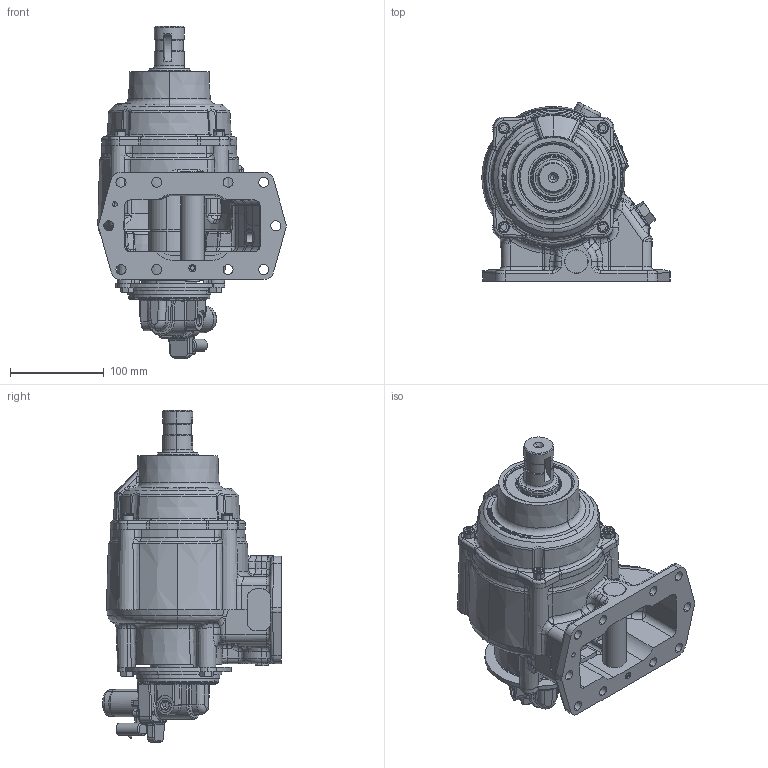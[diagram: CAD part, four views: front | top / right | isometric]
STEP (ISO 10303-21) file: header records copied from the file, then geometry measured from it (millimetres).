
FILE_DESCRIPTION (( 'STEP AP203' ), '1' );
FILE_NAME ('A20-A10XX-HX31XPX.STEP', '2023-03-28T17:14:47', ( '' ), ( '' ), 'SwSTEP 2.0', 'SolidWorks 2021', '' );
FILE_SCHEMA (( 'CONFIG_CONTROL_DESIGN' ));
Length unit declared in the file: inch
Products named in the file (31): 12T42978TMP.STEP; A20-A10XX-HX31XPX; 15T43460TMP_NO SENSOR HOLES.STEP; 15T43431_FOR CLAMPS; 47T6123_15T43431_DUST CAP INSTALLED; 47T6124TMP_15T43460_KEY_C.STEP; 01T43433_TMPTMP_STEEL CLAMP.STEP; SC-253TMP_12T39023.STEP; 06T43108TMP_06T43108.STEP; 47T6130TMP.STEP; 47T6123TMP_Solenoid; 11T37795TMP.STEP; 47T6127TMP_01T43433.STEP; 47T6128TMP_compressed disc.STEP; SC-288TMP_19T36082.STEP; A20-A10XX-HX31XPX.STEP; 35M35821M_TEMPTMP.STEP; 47T6131TMP.STEP; 25T41463TMP.STEP; 47T6125TMP.STEP; 19T62950; 12T36701; DropInSolenoidRearCoverAssembly; 35T40860; 49T43515TMP_BENT WIRE.STEP; 47T6129TMP_OUTPUT C.STEP; SC-301_25T37702; SC-249TMP_19T36588.STEP; 07T43110TMP_NO GROOVE.STEP; 25T35999TMP.STEP; 36T62352TMP.STEP
Assembly tree (40 placements, depth 6):
  A20-A10XX-HX31XPX
    A20-A10XX-HX31XPX.STEP
      47T6127TMP_01T43433.STEP
        01T43433_TMPTMP_STEEL CLAMP.STEP
        25T35999TMP.STEP
        SC-288TMP_19T36082.STEP
        SC-253TMP_12T39023.STEP  x2
        36T62352TMP.STEP
        35M35821M_TEMPTMP.STEP  x2
      47T6129TMP_OUTPUT C.STEP
        47T6128TMP_compressed disc.STEP
          47T6125TMP.STEP
            49T43515TMP_BENT WIRE.STEP
          06T43108TMP_06T43108.STEP
          12T42978TMP.STEP
      47T6124TMP_15T43460_KEY_C.STEP
        15T43460TMP_NO SENSOR HOLES.STEP
        11T37795TMP.STEP
        SC-249TMP_19T36588.STEP  x4
      47T6131TMP.STEP
        47T6130TMP.STEP
          25T41463TMP.STEP
          07T43110TMP_NO GROOVE.STEP
      SC-249TMP_19T36588.STEP  x4
    DropInSolenoidRearCoverAssembly
      47T6123TMP_Solenoid
      47T6123_15T43431_DUST CAP INSTALLED
        15T43431_FOR CLAMPS
        19T62950  x2
        12T36701
        SC-301_25T37702
    35T40860
Bounding box: 200.59 x 190.46 x 353.61 mm (x, y, z)
Volume: 1806536.8 mm3; surface area: 476423.5 mm2
Topology: 40 solids, 42 shells, 3572 faces, 8829 edges, 5388 vertices
Faces by surface type: plane 1241, cylinder 734, bspline 707, cone 443, torus 384, sphere 63
Entity records: 169039 total; most frequent: CARTESIAN_POINT 90088, ORIENTED_EDGE 16610, DIRECTION 14553, EDGE_CURVE 8305, AXIS2_PLACEMENT_3D 5638, VERTEX_POINT 5128, EDGE_LOOP 3627, ADVANCED_FACE 3379
